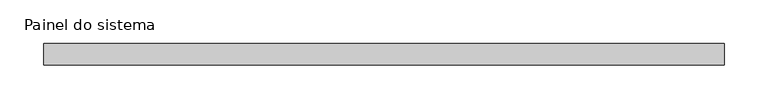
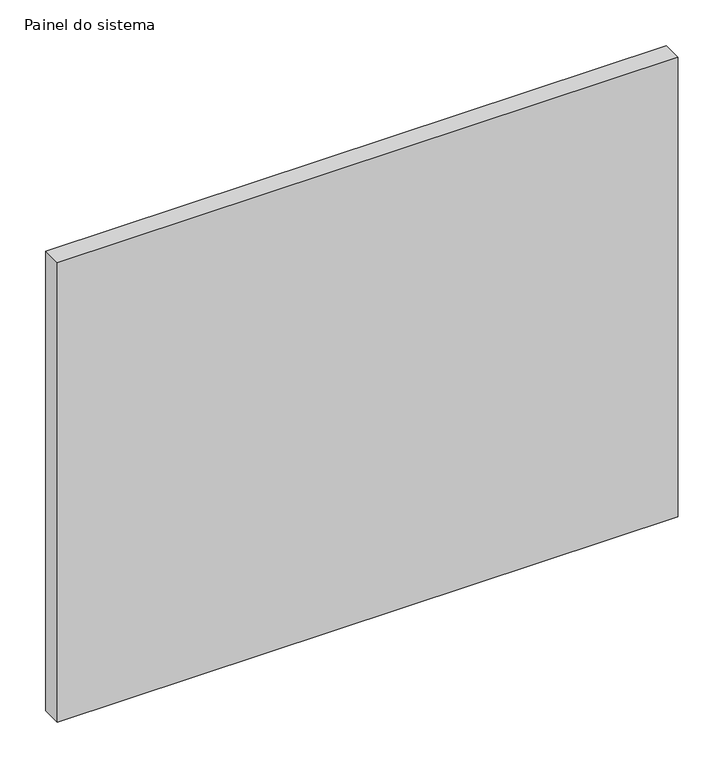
"""IFC4 building model written with IfcOpenShell, lengths in millimetres: plate geometry, Painel do sistema : Envidraçado."""

from ifc_helpers import new_model, si_unit, origin, origin_with_axes, place, context, project, spatial, polyline, outline, extrude, source, transform, mapped, element, save


def painel_do_sistema_5c456248(model_context):
    return source(origin(), model_context, "Body", "SweptSolid", [
        extrude(outline(polyline([(390.0, 24.5), (-390.0, 24.5), (-390.0, 49.5), (390.0, 49.5), (390.0, 24.5)])), origin_with_axes(), (0.0, 0.0, 1.0), 610.0),
    ])


if __name__ == "__main__":
    model = new_model("IFC4")
    model_context = context("Model", 3, world=origin())
    ifc_project = project(units=[si_unit("LENGTHUNIT", "METRE", prefix="MILLI")], contexts=[model_context])
    site = spatial("IfcSite", under=ifc_project)
    building = spatial("IfcBuilding", under=site)
    placement = place(None, origin())
    painel_do_sistema_shape = painel_do_sistema_5c456248(model_context)
    element("IfcPlate", 1, ObjectType="Painel do sistema : Envidraçado", at=placement, inside=building, context=model_context, shape_type="MappedRepresentation", body=[
        mapped(painel_do_sistema_shape, transform((0.0, 0.0, 0.0), x_axis=(1.0, 0.0, 0.0), y_axis=(0.0, 1.0, 0.0), z_axis=(0.0, 0.0, 1.0))),
    ])
    save(model, "model.ifc")
